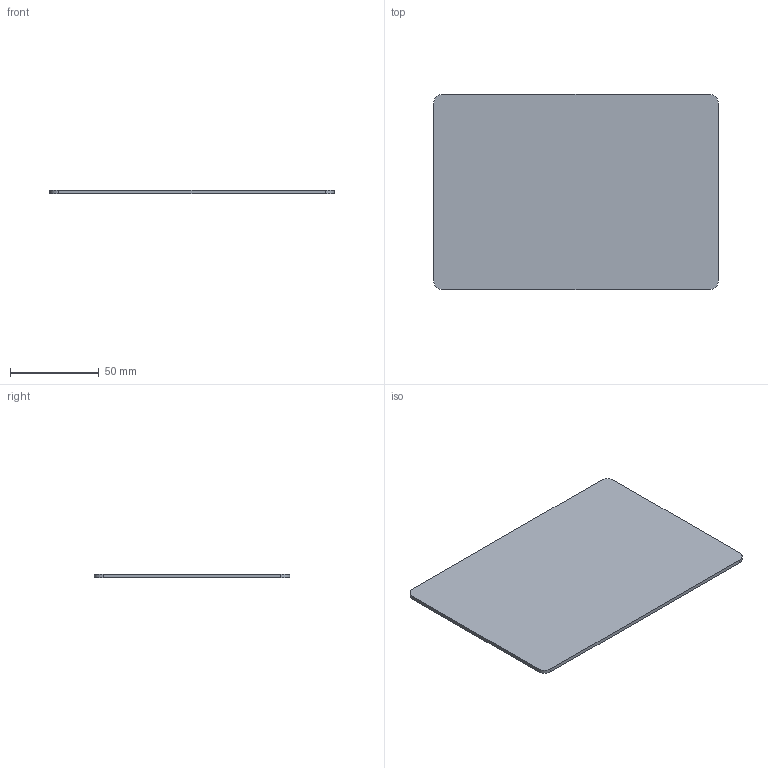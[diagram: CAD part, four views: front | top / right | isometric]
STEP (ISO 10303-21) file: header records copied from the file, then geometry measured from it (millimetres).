
FILE_DESCRIPTION(('FreeCAD Model'),'2;1');
FILE_NAME('Open CASCADE Shape Model','2026-10-19T19:41:49',('FreeCAD'),( 'FreeCAD'),'Open CASCADE STEP processor 7.8','FreeCAD','Unknown');
FILE_SCHEMA(('AUTOMOTIVE_DESIGN { 1 0 10303 214 1 1 1 1 }'));
Length unit declared in the file: millimetre
Products named in the file (1): Open CASCADE STEP translator 7.8 6
Bounding box: 160 x 110 x 2 mm (x, y, z)
Volume: 35157.1 mm3; surface area: 36219.9 mm2
Topology: 1 solids, 1 shells, 10 faces, 24 edges, 16 vertices
Faces by surface type: plane 6, cylinder 4
Entity records: 306 total; most frequent: DIRECTION 54, CARTESIAN_POINT 51, ORIENTED_EDGE 48, EDGE_CURVE 24, AXIS2_PLACEMENT_3D 19, VERTEX_POINT 16, LINE 16, VECTOR 16
